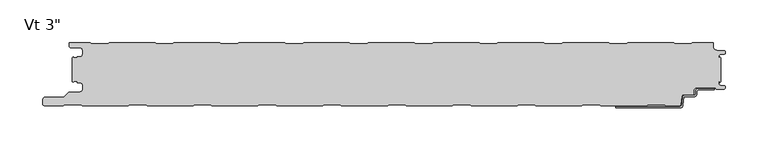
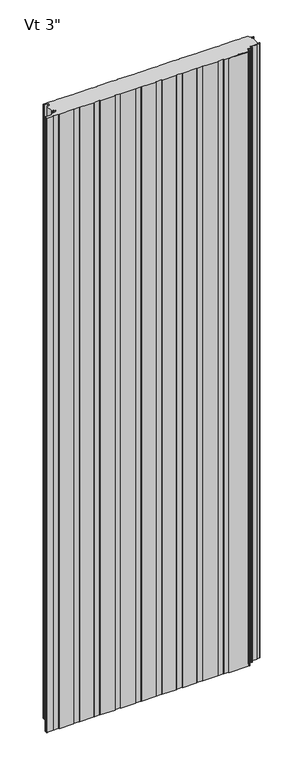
"""IFC4 building model written with IfcOpenShell, lengths in millimetres: plate geometry."""

from ifc_helpers import new_model, si_unit, point, frame, frame_2d, origin, origin_with_axes, place, context, project, spatial, polyline, circle_curve, trimmed, segment, composite_curve, outline, extrude, source, transform, mapped, element, save
from ifc_brep_helpers import plane_surface, cylinder_surface, revolved_surface, advanced_brep


def plate_bf982a10(model_context):
    return source(origin(), model_context, "Body", "SolidModel", [
        advanced_brep(
        [(354.8464083, -55.1008679, 0.0), (373.5916083, -55.1008679, 0.0), (373.5916083, -56.6248679, 0.0), (354.8464083, -56.6248679, 0.0), (353.3224083, -58.1488679, 0.0), (353.3224083, -61.2476679, 0.0), (349.8680083, -64.7020679, 0.0), (338.655451, -64.7020679, 0.0), (337.8963506, -65.3976552, 0.0), (336.701523, -74.9416507, 0.0), (333.6651216, -77.724, 0.0), (258.0978083, -77.7360323, 0.0), (258.0978083, -76.2, 0.0), (333.6651216, -76.2, 0.0), (335.1833223, -74.8088254, 0.0), (336.3781499, -65.2648299, 0.0), (338.655451, -63.1780679, 0.0), (349.8680083, -63.1780679, 0.0), (351.7984083, -61.2476679, 0.0), (351.7984083, -58.1488679, 0.0), (354.8464083, -55.1008679, 2400.0), (351.7984083, -58.1488679, 2400.0), (351.7984083, -61.2476679, 2400.0), (349.8680083, -63.1780679, 2400.0), (338.655451, -63.1780679, 2400.0), (336.3781499, -65.2648299, 2400.0), (335.1833223, -74.8088254, 2400.0), (333.6651216, -76.2, 2400.0), (258.0978083, -76.2, 2400.0), (258.0978083, -77.7360323, 2400.0), (333.6651216, -77.7360323, 2400.0), (336.701523, -74.9416507, 2400.0), (337.8963506, -65.3976552, 2400.0), (338.655451, -64.7020679, 2400.0), (349.8680083, -64.7020679, 2400.0), (353.3224083, -61.2476679, 2400.0), (353.3224083, -58.1488679, 2400.0), (354.8464083, -56.6248679, 2400.0), (373.5916083, -56.6248679, 2400.0), (373.5916083, -55.1008679, 2400.0)],
        [
            (0, 1),
            (1, 2),
            (2, 3),
            (3, 4, circle_curve(frame((354.8464083, -58.1488679, 0.0), z_axis=(0.0, 0.0, 1.0), x_axis=(0.0, 1.0, 0.0)), 1.524)),
            (4, 5),
            (5, 6, circle_curve(frame((349.8680083, -61.2476679, 0.0), z_axis=(0.0, 0.0, -1.0), x_axis=(0.0, 1.0, 0.0)), 3.4544)),
            (6, 7),
            (7, 8, circle_curve(frame((338.655451, -65.4640679, 0.0), z_axis=(0.0, 0.0, 1.0), x_axis=(0.0, 1.0, 0.0)), 0.762)),
            (8, 9),
            (9, 10, circle_curve(frame((333.6651216, -74.676, 0.0), z_axis=(0.0, 0.0, -1.0), x_axis=(0.0, 1.0, 0.0)), 3.048)),
            (10, 11),
            (11, 12),
            (12, 13),
            (13, 14, circle_curve(frame((333.6651216, -74.676, 0.0), z_axis=(0.0, 0.0, 1.0), x_axis=(0.0, 1.0, 0.0)), 1.524)),
            (14, 15),
            (15, 16, circle_curve(frame((338.655451, -65.4640679, 0.0), z_axis=(0.0, 0.0, -1.0), x_axis=(0.0, 1.0, 0.0)), 2.286)),
            (16, 17),
            (17, 18, circle_curve(frame((349.8680083, -61.2476679, 0.0), z_axis=(0.0, 0.0, 1.0), x_axis=(0.0, 1.0, 0.0)), 1.9304)),
            (18, 19),
            (19, 0, circle_curve(frame((354.8464083, -58.1488679, 0.0), z_axis=(0.0, 0.0, -1.0), x_axis=(0.0, 1.0, 0.0)), 3.048)),
            (20, 21, circle_curve(frame((354.8464083, -58.1488679, 2400.0), z_axis=(0.0, 0.0, 1.0), x_axis=(0.0, 1.0, 0.0)), 3.048)),
            (21, 22),
            (22, 23, circle_curve(frame((349.8680083, -61.2476679, 2400.0), z_axis=(0.0, 0.0, -1.0), x_axis=(0.0, 1.0, 0.0)), 1.9304)),
            (23, 24),
            (24, 25, circle_curve(frame((338.655451, -65.4640679, 2400.0), z_axis=(0.0, 0.0, 1.0), x_axis=(0.0, 1.0, 0.0)), 2.286)),
            (25, 26),
            (26, 27, circle_curve(frame((333.6651216, -74.676, 2400.0), z_axis=(0.0, 0.0, -1.0), x_axis=(0.0, 1.0, 0.0)), 1.524)),
            (27, 28),
            (28, 29),
            (29, 30),
            (30, 31, circle_curve(frame((333.6651216, -74.676, 2400.0), z_axis=(0.0, 0.0, 1.0), x_axis=(0.0, 1.0, 0.0)), 3.048)),
            (31, 32),
            (32, 33, circle_curve(frame((338.655451, -65.4640679, 2400.0), z_axis=(0.0, 0.0, -1.0), x_axis=(0.0, 1.0, 0.0)), 0.762)),
            (33, 34),
            (34, 35, circle_curve(frame((349.8680083, -61.2476679, 2400.0), z_axis=(0.0, 0.0, 1.0), x_axis=(0.0, 1.0, 0.0)), 3.4544)),
            (35, 36),
            (36, 37, circle_curve(frame((354.8464083, -58.1488679, 2400.0), z_axis=(0.0, 0.0, -1.0), x_axis=(0.0, 1.0, 0.0)), 1.524)),
            (37, 38),
            (38, 39),
            (39, 20),
            (2, 38),
            (37, 3),
            (15, 25),
            (24, 16),
            (7, 33),
            (32, 8),
            (5, 35),
            (34, 6),
            (1, 39),
            (36, 4),
            (9, 31),
            (30, 10),
            (13, 27),
            (26, 14),
            (0, 20),
            (12, 28),
            (29, 11),
            (23, 17),
            (18, 22),
            (21, 19),
        ],
        [
            plane_surface(frame((373.5916083, -76.2, 0.0), z_axis=(0.0, 0.0, -1.0), x_axis=(-1.0, 0.0, 0.0))),
            plane_surface(frame((373.5916083, -76.2, 2400.0), z_axis=(0.0, 0.0, 1.0), x_axis=(-1.0, 0.0, 0.0))),
            plane_surface(frame((354.8464083, -56.6248679, 0.0), z_axis=(0.0, -1.0, 0.0), x_axis=(0.0, 0.0, 1.0))),
            cylinder_surface(frame((338.655451, -65.4640679, 0.0), z_axis=(0.0, 0.0, -1.0), x_axis=(0.0, 1.0, 0.0)), 2.286),
            revolved_surface(polyline([(338.655451, -64.7020679, 2400.0), (338.655451, -64.7020679, 0.0)]), (338.655451, -65.4640679, 0.0), (0.0, 0.0, 1.0)),
            cylinder_surface(frame((349.8680083, -61.2476679, 0.0), z_axis=(0.0, 0.0, -1.0), x_axis=(0.0, 1.0, 0.0)), 3.4544),
            plane_surface(frame((373.5916083, -56.6248679, 0.0), z_axis=(1.0, 0.0, 0.0), x_axis=(0.0, 0.0, 1.0))),
            revolved_surface(polyline([(354.8464083, -56.6248679, 2400.0), (354.8464083, -56.6248679, 0.0)]), (354.8464083, -58.1488679, 0.0), (0.0, 0.0, 1.0)),
            cylinder_surface(frame((333.6651216, -74.676, 0.0), z_axis=(0.0, 0.0, -1.0), x_axis=(0.0, 1.0, 0.0)), 3.048),
            revolved_surface(polyline([(333.6651216, -73.152, 2400.0), (333.6651216, -73.152, 0.0)]), (333.6651216, -74.676, 0.0), (0.0, 0.0, 1.0)),
            plane_surface(frame((373.5916083, -55.1008679, 0.0), z_axis=(0.0, 1.0, 0.0), x_axis=(0.0, 0.0, 1.0))),
            plane_surface(frame((336.3781499, -65.2648299, 0.0), z_axis=(-0.9922544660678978, 0.12422187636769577, 0.0), x_axis=(0.0, 0.0, 1.0))),
            plane_surface(frame((333.6651216, -76.2, 0.0), z_axis=(0.0, 1.0, 0.0), x_axis=(0.0, 0.0, 1.0))),
            plane_surface(frame((336.701523, -74.9416507, 0.0), z_axis=(0.9922544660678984, -0.12422187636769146, 0.0), x_axis=(0.0, 0.0, 1.0))),
            plane_surface(frame((353.3224083, -61.2476679, 0.0), z_axis=(1.0, 0.0, 0.0), x_axis=(0.0, 0.0, 1.0))),
            plane_surface(frame((258.0978083, -77.7360323, 0.0), z_axis=(0.0, -1.0, 0.0), x_axis=(0.0, 0.0, 1.0))),
            plane_surface(frame((258.0978083, -76.2, 0.0), z_axis=(-1.0, 0.0, 0.0), x_axis=(0.0, 0.0, 1.0))),
            plane_surface(frame((349.8680083, -63.1780679, 0.0), z_axis=(0.0, 1.0, 0.0), x_axis=(0.0, 0.0, 1.0))),
            plane_surface(frame((351.7984083, -58.1488679, 0.0), z_axis=(-1.0, 0.0, 0.0), x_axis=(0.0, 0.0, 1.0))),
            plane_surface(frame((338.655451, -64.7020679, 0.0), z_axis=(0.0, -1.0, 0.0), x_axis=(0.0, 0.0, 1.0))),
            revolved_surface(polyline([(349.8680083, -59.317267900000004, 2400.0), (349.8680083, -59.317267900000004, 0.0)]), (349.8680083, -61.2476679, 0.0), (0.0, 0.0, 1.0)),
            cylinder_surface(frame((354.8464083, -58.1488679, 0.0), z_axis=(0.0, 0.0, -1.0), x_axis=(0.0, 1.0, 0.0)), 3.048),
        ],
        [
            (0, [[1, 2, 3, 4, 5, 6, 7, 8, 9, 10, 11, 12, 13, 14, 15, 16, 17, 18, 19, 20]]),
            (1, [[21, 22, 23, 24, 25, 26, 27, 28, 29, 30, 31, 32, 33, 34, 35, 36, 37, 38, 39, 40]]),
            (2, [[41, -38, 42, -3]]),
            (3, [[43, -25, 44, -16]]),
            (4, [[45, -33, 46, -8]]),
            (5, [[47, -35, 48, -6]]),
            (6, [[49, -39, -41, -2]]),
            (7, [[-42, -37, 50, -4]]),
            (8, [[51, -31, 52, -10]]),
            (9, [[53, -27, 54, -14]]),
            (10, [[55, -40, -49, -1]]),
            (11, [[-54, -26, -43, -15]]),
            (12, [[56, -28, -53, -13]]),
            (13, [[-46, -32, -51, -9]]),
            (14, [[-50, -36, -47, -5]]),
            (15, [[-52, -30, 57, -11]]),
            (16, [[-57, -29, -56, -12]]),
            (17, [[-44, -24, 58, -17]]),
            (18, [[59, -22, 60, -19]]),
            (19, [[-48, -34, -45, -7]]),
            (20, [[-58, -23, -59, -18]]),
            (21, [[-60, -21, -55, -20]]),
        ],
    ),
        extrude(outline(composite_curve([segment(polyline([(-379.9683001, -47.8760133), (-381.0, -46.8443135), (-381.0, -19.0328281), (-379.9686883, -18.0015165)]), True, "CONTINUOUS"), segment(trimmed(circle_curve(frame_2d((-378.9686911, -18.0015105)), 0.9999972), [point((-379.9686883, -18.0015165))], [point((-378.9686911, -19.0015077))], True, "CARTESIAN"), True, "CONTINUOUS"), segment(polyline([(-378.9686911, -19.0015077), (-374.9684875, -19.0015077), (-374.9684875, -18.0015132), (-372.2762777, -18.0015132)]), True, "CONTINUOUS"), segment(trimmed(circle_curve(frame_2d((-372.2762777, -14.7015175)), 3.2999957), [point((-372.2762777, -18.0015132))], [point((-368.976282, -14.7015175))], True, "CARTESIAN"), True, "CONTINUOUS"), segment(polyline([(-368.976282, -14.7015175), (-368.976282, -10.3015263)]), True, "CONTINUOUS"), segment(trimmed(circle_curve(frame_2d((-372.2762778, -10.3015263)), 3.2999959), [point((-368.976282, -10.3015263))], [point((-372.2762778, -7.0015304))], True, "CARTESIAN"), True, "CONTINUOUS"), segment(polyline([(-372.2762778, -7.0015304), (-382.6962564, -7.0015304)]), True, "CONTINUOUS"), segment(trimmed(circle_curve(frame_2d((-382.6962564, -5.2315362)), 1.7699942), [point((-382.6962564, -7.0015304))], [point((-384.4662506, -5.2315362))], False, "CARTESIAN"), True, "CONTINUOUS"), segment(polyline([(-384.4662506, -5.2315362), (-384.4662506, -0.9999889), (-359.965974, -0.9999889), (-358.5803313, -2.200228), (-339.205165, -2.200228), (-337.8195321, -0.9999973), (-283.7661167, -0.9999973), (-282.3804837, -2.200228), (-263.0053174, -2.200228), (-261.6196845, -0.9999973), (-207.5662691, -0.9999973), (-206.1806361, -2.200228), (-186.8054698, -2.200228), (-185.4198369, -0.9999973), (-131.3664215, -0.9999973), (-129.9807885, -2.200228), (-110.6056222, -2.200228), (-109.2199893, -0.9999973), (-55.1665739, -0.9999973), (-53.7809409, -2.200228), (-34.4057746, -2.200228), (-33.0201417, -0.9999973), (21.0332737, -0.9999973), (22.4189067, -2.200228), (41.794073, -2.200228), (43.1797059, -0.9999973), (97.2331213, -0.9999973), (98.6187543, -2.200228), (117.9939206, -2.200228), (119.3795535, -0.9999973), (173.4329689, -0.9999973), (174.8186019, -2.200228), (194.1937682, -2.200228), (195.5794011, -0.9999973), (249.6328165, -0.9999973), (251.0184495, -2.200228), (270.3936158, -2.200228), (271.7792487, -0.9999973), (325.8326641, -0.9999973), (327.2182971, -2.200228), (346.5934634, -2.200228), (347.9790963, -0.9999973), (372.4787013, -0.9999973), (372.4787013, -6.002598)]), True, "CONTINUOUS"), segment(trimmed(circle_curve(frame_2d((376.4939817, -5.9867311)), 4.0153117), [point((372.4787013, -6.002598))], [point((376.3016499, -9.9974338))], True, "CARTESIAN"), True, "CONTINUOUS"), segment(polyline([(376.3016499, -9.9974338), (384.7931719, -10.4046415)]), True, "CONTINUOUS"), segment(trimmed(circle_curve(frame_2d((384.6781032, -12.5552844)), 2.153719), [point((384.7931719, -10.4046415))], [point((384.7921924, -14.7059795))], False, "CARTESIAN"), True, "CONTINUOUS"), segment(polyline([(384.7921924, -14.7059795), (380.6513685, -14.9256402)]), True, "CONTINUOUS"), segment(trimmed(circle_curve(frame_2d((380.7186869, -16.6743434)), 1.7499985), [point((380.6513685, -14.9256402))], [point((378.9686884, -16.6743434))], True, "CARTESIAN"), True, "CONTINUOUS"), segment(polyline([(378.9686884, -16.6743434), (378.9686884, -19.0015261), (379.9686884, -19.0015261), (379.9686884, -17.5871382), (381.0, -18.6184498), (381.0, -47.2586918), (379.9686884, -48.2900034), (379.9686884, -46.7025034), (378.9686884, -46.7025034), (378.9686884, -49.48705)]), True, "CONTINUOUS"), segment(trimmed(circle_curve(frame_2d((380.8099653, -49.443489)), 1.8417922), [point((378.9686884, -49.48705))], [point((380.6977997, -51.2818625))], True, "CARTESIAN"), True, "CONTINUOUS"), segment(polyline([(380.6977997, -51.2818625), (384.7037148, -51.5262775)]), True, "CONTINUOUS"), segment(trimmed(circle_curve(frame_2d((384.6236622, -53.6266264)), 2.1018739), [point((384.7037148, -51.5262775))], [point((384.706811, -55.726855))], False, "CARTESIAN"), True, "CONTINUOUS"), segment(polyline([(384.706811, -55.726855), (375.7334028, -56.0821154), (374.5895515, -54.1012676), (353.4091924, -54.1012676)]), True, "CONTINUOUS"), segment(trimmed(circle_curve(frame_2d((353.4091924, -58.1007205)), 3.9994529), [point((353.4091924, -54.1012676))], [point((349.4097394, -58.1007205))], True, "CARTESIAN"), True, "CONTINUOUS"), segment(polyline([(349.4097394, -58.1007205), (349.4097394, -61.2443759)]), True, "CONTINUOUS"), segment(trimmed(circle_curve(frame_2d((348.4583308, -61.2443759)), 0.9514087), [point((349.4097394, -61.2443759))], [point((348.4583308, -62.1957846))], False, "CARTESIAN"), True, "CONTINUOUS"), segment(polyline([(348.4583308, -62.1957846), (338.3653654, -62.1957846)]), True, "CONTINUOUS"), segment(trimmed(circle_curve(frame_2d((338.2396267, -65.2231704)), 3.0299959), [point((338.3653654, -62.1957846))], [point((335.221161, -64.9590875))], True, "CARTESIAN"), True, "CONTINUOUS"), segment(polyline([(335.221161, -64.9590875), (334.4671075, -73.4178001)]), True, "CONTINUOUS"), segment(trimmed(circle_curve(frame_2d((332.5156233, -73.2461167)), 1.9590216), [point((334.4671075, -73.4178001))], [point((332.5156233, -75.2051384))], False, "CARTESIAN"), True, "CONTINUOUS"), segment(polyline([(332.5156233, -75.2051384), (316.4457079, -75.2051384), (315.2403361, -73.9997666), (295.5209236, -73.9997666), (294.3206929, -75.1999973), (240.2405611, -75.1999973), (239.0403304, -73.9997666), (219.3209179, -73.9997666), (218.1206872, -75.1999973), (164.0405554, -75.1999973), (162.8403247, -73.9997666), (143.1209122, -73.9997666), (141.9206815, -75.1999973), (87.8405497, -75.1999973), (86.640319, -73.9997666), (66.9209065, -73.9997666), (65.7206758, -75.1999973), (11.640544, -75.1999973), (10.4403133, -73.9997666), (-9.2790992, -73.9997666), (-10.4793299, -75.1999973), (-64.5594617, -75.1999973), (-65.7596924, -73.9997666), (-85.4791049, -73.9997666), (-86.6793356, -75.1999973), (-140.7594674, -75.1999973), (-141.9596981, -73.9997666), (-161.6791106, -73.9997666), (-162.8793413, -75.1999973), (-216.9594731, -75.1999973), (-218.1597038, -73.9997666), (-237.8791163, -73.9997666), (-239.079347, -75.1999973), (-293.1594787, -75.1999973), (-294.3597095, -73.9997666), (-314.079122, -73.9997666), (-315.2793527, -75.1999973), (-369.3594844, -75.1999973), (-370.5597151, -73.9997666), (-390.2791277, -73.9997666), (-391.4790962, -75.1997351), (-413.4521176, -75.1997351)]), True, "CONTINUOUS"), segment(trimmed(circle_curve(frame_2d((-413.4521176, -72.6294958)), 2.5702393), [point((-413.4521176, -75.1997351))], [point((-416.0125699, -72.4054102))], False, "CARTESIAN"), True, "CONTINUOUS"), segment(polyline([(-416.0125699, -72.4054102), (-415.5765709, -67.4235893)]), True, "CONTINUOUS"), segment(trimmed(circle_curve(frame_2d((-412.9198392, -67.9049799)), 2.6999926), [point((-415.5765709, -67.4235893))], [point((-412.9198392, -65.2049873))], False, "CARTESIAN"), True, "CONTINUOUS"), segment(polyline([(-412.9198392, -65.2049873), (-390.8247096, -65.2049873), (-385.3226385, -59.7029162)]), True, "CONTINUOUS"), segment(trimmed(circle_curve(frame_2d((-384.1205608, -60.9049939)), 1.6999946), [point((-385.3226385, -59.7029162))], [point((-384.1205608, -59.2049993))], False, "CARTESIAN"), True, "CONTINUOUS"), segment(polyline([(-384.1205608, -59.2049993), (-372.3096717, -59.2049993)]), True, "CONTINUOUS"), segment(trimmed(circle_curve(frame_2d((-372.3096717, -55.855004)), 3.3499953), [point((-372.3096717, -59.2049993))], [point((-368.9596764, -55.855004))], True, "CARTESIAN"), True, "CONTINUOUS"), segment(polyline([(-368.9596764, -55.855004), (-368.9596764, -51.4550128)]), True, "CONTINUOUS"), segment(trimmed(circle_curve(frame_2d((-372.3096717, -51.4550128)), 3.3499953), [point((-368.9596764, -51.4550128))], [point((-372.3096717, -48.1050175))], True, "CARTESIAN"), True, "CONTINUOUS"), segment(polyline([(-372.3096717, -48.1050175), (-375.0087827, -48.1050175), (-375.0087827, -46.7065386), (-378.7671761, -46.7065386)]), True, "CONTINUOUS"), segment(trimmed(circle_curve(frame_2d((-378.7686908, -47.9065352)), 1.1999976), [point((-378.7671761, -46.7065386))], [point((-379.9683001, -47.8760133))], True, "CARTESIAN"), True, "CONTINUOUS")], self_intersect=False)), origin_with_axes(), (0.0, 0.0, 1.0), 2400.0),
    ])


if __name__ == "__main__":
    model = new_model("IFC4")
    model_context = context("Model", 3, world=origin())
    ifc_project = project(units=[si_unit("LENGTHUNIT", "METRE", prefix="MILLI")], contexts=[model_context])
    site = spatial("IfcSite", under=ifc_project)
    building = spatial("IfcBuilding", under=site)
    placement = place(None, origin())
    plate_shape = plate_bf982a10(model_context)
    element("IfcPlate", 1, ObjectType="KIP-30-Karrier-KP-R19-CP-Vt-SL_SL : Vt 3\"", at=placement, inside=building, context=model_context, shape_type="MappedRepresentation", body=[
        mapped(plate_shape, transform((0.0, 0.0, 0.0), x_axis=(1.0, 0.0, 0.0), y_axis=(0.0, 1.0, 0.0), z_axis=(0.0, 0.0, 1.0))),
    ])
    save(model, "model.ifc")
